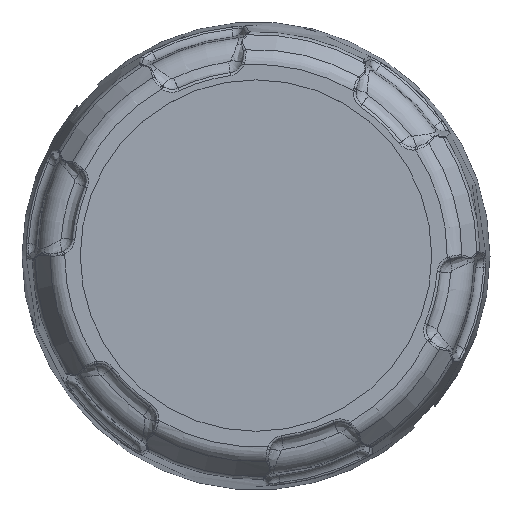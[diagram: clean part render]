
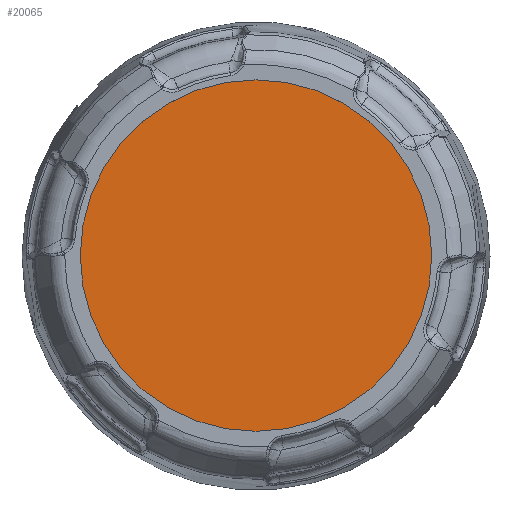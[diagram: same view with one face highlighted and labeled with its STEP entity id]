
A CAD part, top view. The second image highlights one B-rep face of the part: STEP entity #20065.
In plain terms, the highlighted planar face has unit normal (0, 0, 1).
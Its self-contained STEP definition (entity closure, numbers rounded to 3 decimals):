
#6143=CARTESIAN_POINT('',(0.,0.,38.425));
#6144=DIRECTION('',(0.,0.,1.));
#6145=DIRECTION('',(0.,-1.,0.));
#6146=AXIS2_PLACEMENT_3D('',#6143,#6144,#6145);
#6151=CARTESIAN_POINT('',(0.,0.,38.425));
#6152=DIRECTION('',(0.,0.,1.));
#6153=DIRECTION('',(0.,1.,0.));
#6154=AXIS2_PLACEMENT_3D('',#6151,#6152,#6153);
#10282=CARTESIAN_POINT('',(0.,-30.,38.425));
#10284=VERTEX_POINT('',#10282);
#10286=CARTESIAN_POINT('',(0.,30.,38.425));
#10288=VERTEX_POINT('',#10286);
#20055=CARTESIAN_POINT('',(0.,0.,38.425));
#20056=DIRECTION('',(0.,0.,1.));
#20057=DIRECTION('',(0.,-1.,0.));
#20058=AXIS2_PLACEMENT_3D('',#20055,#20056,#20057);
#20059=PLANE('',#20058);
#20061=ORIENTED_EDGE('',*,*,#20060,.F.);
#20062=ORIENTED_EDGE('',*,*,#20045,.F.);
#20063=EDGE_LOOP('',(#20061,#20062));
#20064=FACE_OUTER_BOUND('',#20063,.F.);
#6147=CIRCLE('',#6146,30.);
#6155=CIRCLE('',#6154,30.);
#20045=EDGE_CURVE('',#10288,#10284,#6155,.T.);
#20060=EDGE_CURVE('',#10284,#10288,#6147,.T.);
#20065=ADVANCED_FACE('',(#20064),#20059,.T.);
